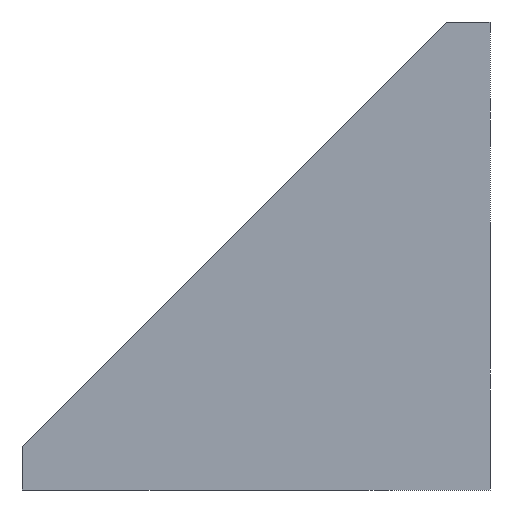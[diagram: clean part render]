
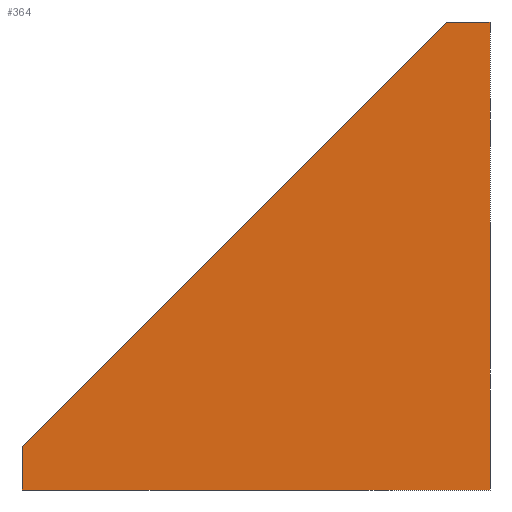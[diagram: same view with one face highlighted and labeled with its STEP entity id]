
A CAD part, left-side view. The second image highlights one B-rep face of the part: STEP entity #364.
In plain terms, the highlighted planar face has unit normal (-1, 0, 0).
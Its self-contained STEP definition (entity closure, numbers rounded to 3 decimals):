
#42 = VERTEX_POINT ( 'NONE', #602 ) ;
#43 = VERTEX_POINT ( 'NONE', #593 ) ;
#45 = EDGE_CURVE ( 'NONE', #94, #42, #576, .T. ) ;
#86 = EDGE_CURVE ( 'NONE', #42, #43, #877, .T. ) ;
#94 = VERTEX_POINT ( 'NONE', #879 ) ;
#339 = VERTEX_POINT ( 'NONE', #1214 ) ;
#340 = EDGE_CURVE ( 'NONE', #381, #43, #1237, .T. ) ;
#364 = ADVANCED_FACE ( 'NONE', ( #1110 ), #1116, .F. ) ;
#366 = ORIENTED_EDGE ( 'NONE', *, *, #370, .T. ) ;
#370 = EDGE_CURVE ( 'NONE', #339, #381, #1154, .T. ) ;
#371 = ORIENTED_EDGE ( 'NONE', *, *, #384, .F. ) ;
#381 = VERTEX_POINT ( 'NONE', #1169 ) ;
#384 = EDGE_CURVE ( 'NONE', #339, #94, #1144, .T. ) ;
#387 = EDGE_LOOP ( 'NONE', ( #501, #505, #504, #371, #366 ) ) ;
#501 = ORIENTED_EDGE ( 'NONE', *, *, #340, .T. ) ;
#504 = ORIENTED_EDGE ( 'NONE', *, *, #45, .F. ) ;
#505 = ORIENTED_EDGE ( 'NONE', *, *, #86, .F. ) ;
#573 = DIRECTION ( 'NONE',  ( 0., -0.707, 0.707 ) ) ;
#574 = VECTOR ( 'NONE', #573, 1000. ) ;
#575 = CARTESIAN_POINT ( 'NONE',  ( -21., 87., 8. ) ) ;
#576 = LINE ( 'NONE', #575, #574 ) ;
#593 = CARTESIAN_POINT ( 'NONE',  ( -21., 0., 87. ) ) ;
#602 = CARTESIAN_POINT ( 'NONE',  ( -21., 8., 87. ) ) ;
#844 = DIRECTION ( 'NONE',  ( 0., -1., 0. ) ) ;
#875 = VECTOR ( 'NONE', #844, 1000. ) ;
#876 = CARTESIAN_POINT ( 'NONE',  ( -21., 43.5, 87. ) ) ;
#877 = LINE ( 'NONE', #876, #875 ) ;
#879 = CARTESIAN_POINT ( 'NONE',  ( -21., 87., 8. ) ) ;
#1105 = AXIS2_PLACEMENT_3D ( 'NONE', #1162, #1161, #1160 ) ;
#1110 = FACE_OUTER_BOUND ( 'NONE', #387, .T. ) ;
#1116 = PLANE ( 'NONE',  #1105 ) ;
#1137 = DIRECTION ( 'NONE',  ( 0., 0., 1. ) ) ;
#1138 = VECTOR ( 'NONE', #1137, 1000. ) ;
#1139 = CARTESIAN_POINT ( 'NONE',  ( -21., 0., 43.5 ) ) ;
#1141 = DIRECTION ( 'NONE',  ( 0., 0., 1. ) ) ;
#1142 = VECTOR ( 'NONE', #1141, 1000. ) ;
#1143 = CARTESIAN_POINT ( 'NONE',  ( -21., 87., 43.5 ) ) ;
#1144 = LINE ( 'NONE', #1143, #1142 ) ;
#1151 = DIRECTION ( 'NONE',  ( 0., -1., 0. ) ) ;
#1152 = VECTOR ( 'NONE', #1151, 1000. ) ;
#1153 = CARTESIAN_POINT ( 'NONE',  ( -21., 43.5, 0. ) ) ;
#1154 = LINE ( 'NONE', #1153, #1152 ) ;
#1160 = DIRECTION ( 'NONE',  ( 0., 0., -1. ) ) ;
#1161 = DIRECTION ( 'NONE',  ( 1., 0., 0. ) ) ;
#1162 = CARTESIAN_POINT ( 'NONE',  ( -21., 0., 87. ) ) ;
#1169 = CARTESIAN_POINT ( 'NONE',  ( -21., 0., 0. ) ) ;
#1214 = CARTESIAN_POINT ( 'NONE',  ( -21., 87., 0. ) ) ;
#1237 = LINE ( 'NONE', #1139, #1138 ) ;
